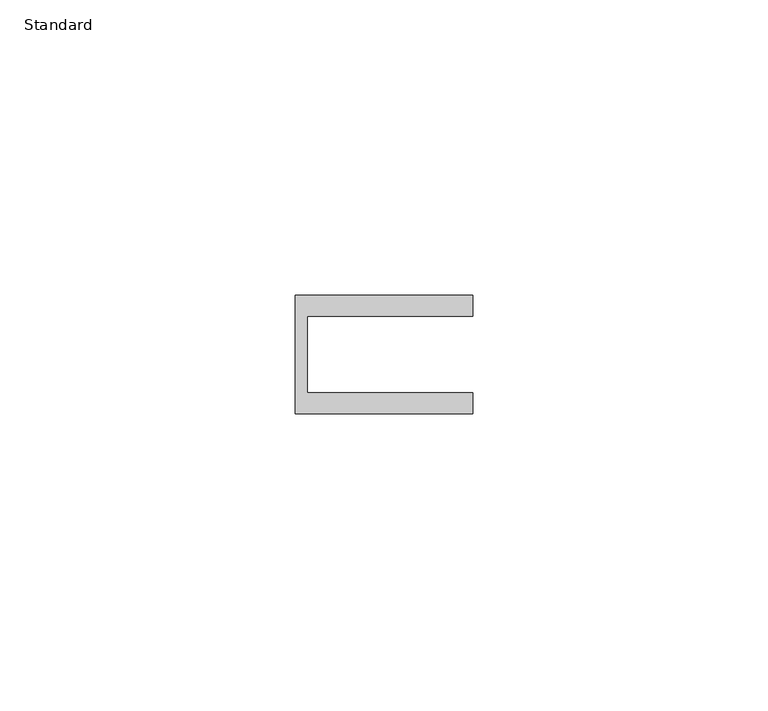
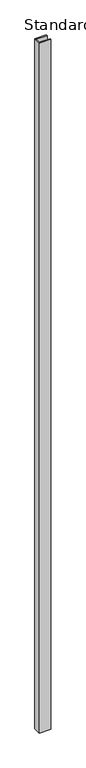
"""IFC4 building model written with IfcOpenShell, lengths in millimetres: furniture geometry, X_Partition-Channel-Duracube-End : Standard."""

from ifc_helpers import new_model, si_unit, origin, origin_with_axes, place, context, project, spatial, polyline, outline, extrude, source, transform, mapped, element, save


def standard_19cf42aa(model_context):
    return source(origin(), model_context, "Body", "SweptSolid", [
        extrude(outline(polyline([(31.7003264, 0.0), (59.7003264, 0.0), (59.7003264, -3.5), (29.7003264, -3.5), (29.7003264, 16.5), (59.7003264, 16.5), (59.7003264, 13.0), (31.7003264, 13.0), (31.7003264, 0.0)])), origin_with_axes(), (0.0, 0.0, 1.0), 1900.0),
    ])


if __name__ == "__main__":
    model = new_model("IFC4")
    model_context = context("Model", 3, world=origin())
    ifc_project = project(units=[si_unit("LENGTHUNIT", "METRE", prefix="MILLI")], contexts=[model_context])
    site = spatial("IfcSite", under=ifc_project)
    building = spatial("IfcBuilding", under=site)
    placement = place(None, origin())
    standard_shape = standard_19cf42aa(model_context)
    element("IfcFurniture", 1, ObjectType="X_Partition-Channel-Duracube-End : Standard", at=placement, inside=building, context=model_context, shape_type="MappedRepresentation", body=[
        mapped(standard_shape, transform((0.0, 0.0, 0.0), x_axis=(1.0, 0.0, 0.0), y_axis=(0.0, 1.0, 0.0), z_axis=(0.0, 0.0, 1.0))),
    ])
    save(model, "model.ifc")
